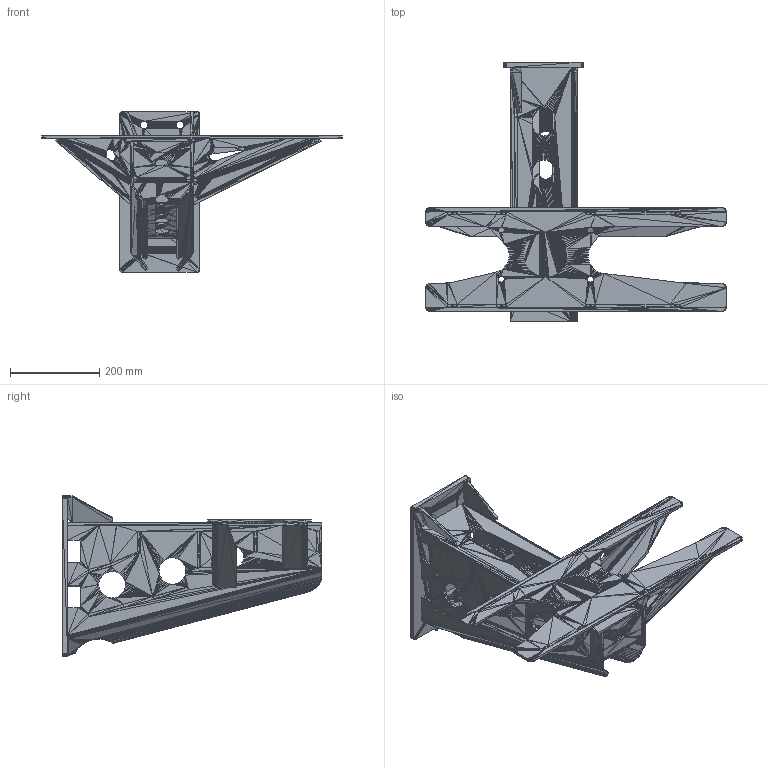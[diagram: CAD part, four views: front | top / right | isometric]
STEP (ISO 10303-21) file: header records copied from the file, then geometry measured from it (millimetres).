
FILE_DESCRIPTION(('HOOPS Exchange Step'),'2;1');
FILE_NAME('C:\Users\ametme3\OneDrive - HELLA GmbH & Co. KGaA\Shared Documents\SOE_Marketing_Internal\Product_Lines\Rear_Lamps\Unterfahrschutz\01 3D Daten\Brackets\3D_data_Bracket_left_tall_9XX-340-383-03.stp','2023-02-14T11:40:54+01:00',('ametme3'),('Unknown organisation'),'HOOPS Exchange 2021.2','HOOPS Exchange','Unknown authorisation');
FILE_SCHEMA( ('AUTOMOTIVE_DESIGN { 1 0 10303 214 1 1 1 1 }') );
Length unit declared in the file: millimetre
Products named in the file (1): 10002988865_D10_001
Bounding box: 675 x 582 x 360 mm (x, y, z)
Surface area: 1457654 mm2 (no closed solid volume)
Topology: 0 solids, 565 shells, 11308 faces, 22776 edges, 11863 vertices
Faces by surface type: plane 11308
Entity records: 102398 total; most frequent: CARTESIAN_POINT 23172, DIRECTION 22618, AXIS2_PLACEMENT_3D 11309, PLANE 11308, POLY_LOOP 11308, FACE_OUTER_BOUND 11308, FACE_SURFACE 11308, CLOSED_SHELL 14
